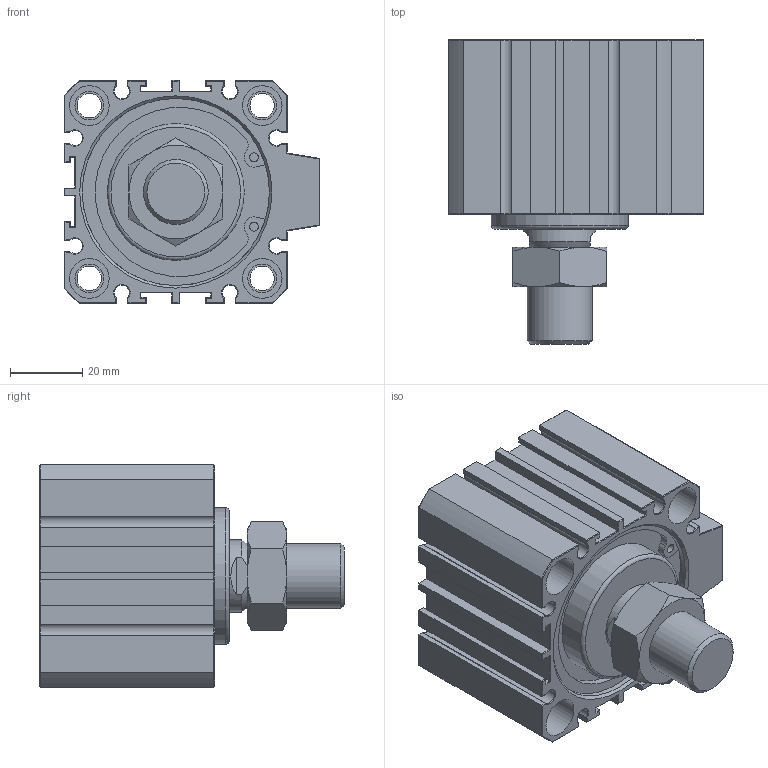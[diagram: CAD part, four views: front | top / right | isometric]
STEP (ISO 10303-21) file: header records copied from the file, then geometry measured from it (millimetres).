
FILE_DESCRIPTION(/* description */ (''),/* implementation_level */ '2;1');
FILE_NAME(/* name */ 'AJC-SDM50X10W',/* time_stamp */ '2019-06-20T15:08:02+08:00',/* author */ ('JEFF HUANG'),/* organization */ ('TAIWAN AMAC CLAMP INDUSTRIAL CO., LTD.'),/* preprocessor_version */ 'ST-DEVELOPER v16.7',/* originating_system */ 'DEX',/* authorisation */ $);
FILE_SCHEMA (('AUTOMOTIVE_DESIGN {1 0 10303 214 3 1 1}'));
Length unit declared in the file: millimetre
Products named in the file (1): AJC-SDM50X10W
Bounding box: 71 x 84.6 x 62 mm (x, y, z)
Volume: 174206.8 mm3; surface area: 37347 mm2
Topology: 1 solids, 1 shells, 402 faces, 901 edges, 498 vertices
Faces by surface type: plane 253, cone 75, cylinder 72, torus 2
Full cylindrical faces by diameter (mm): 2.5 x4, 6.8 x4, 8 x8, 11 x8, 12.301 x2, 18 x1, 20 x1, 38 x2, 52 x2
Entity records: 13212 total; most frequent: CARTESIAN_POINT 1859, DIRECTION 1780, ORIENTED_EDGE 1648, EDGE_CURVE 824, AXIS2_PLACEMENT_3D 597, LINE 586, VECTOR 586, VERTEX_POINT 492
